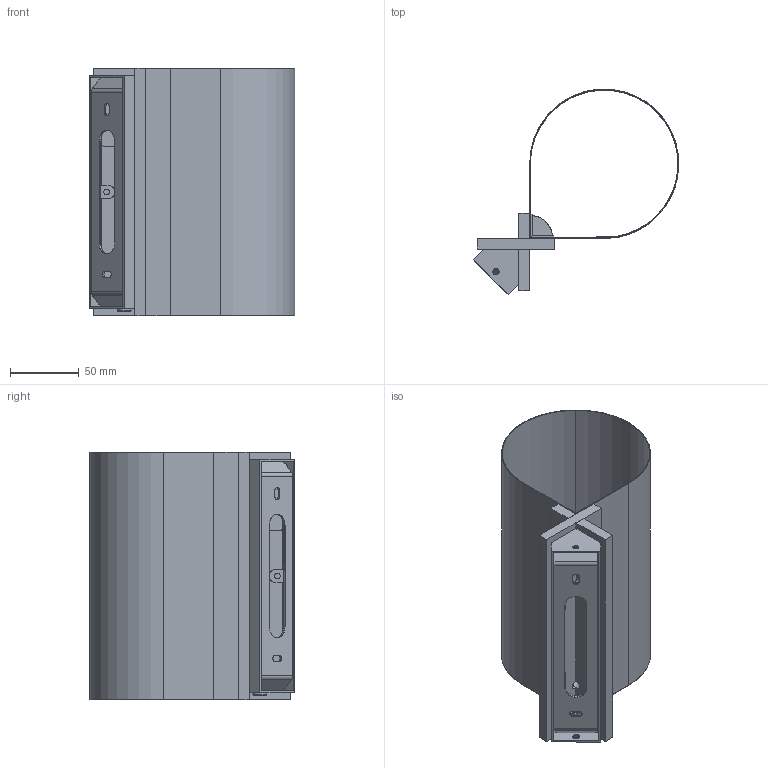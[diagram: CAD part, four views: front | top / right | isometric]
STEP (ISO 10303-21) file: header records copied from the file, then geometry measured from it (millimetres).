
FILE_DESCRIPTION(/* description */ (''),/* implementation_level */ '2;1');
FILE_NAME(/* name */ '20327',/* time_stamp */ '2026-05-05T08:46:15+02:00',/* author */ (''),/* organization */ (''),/* preprocessor_version */ 'ST-DEVELOPER v19.2',/* originating_system */ 'Rhino 8.30',/* authorisation */ '');
FILE_SCHEMA (('CONFIG_CONTROL_DESIGN'));
Length unit declared in the file: millimetre
Products named in the file (1): Document
Bounding box: 149.47 x 149.49 x 180 mm (x, y, z)
Surface area: 224341.5 mm2 (no closed solid volume)
Topology: 0 solids, 372 shells, 372 faces, 1655 edges, 1655 vertices
Faces by surface type: plane 209, cylinder 152, bspline 11
Entity records: 19307 total; most frequent: CARTESIAN_POINT 8543, ORIENTED_EDGE 1655, EDGE_CURVE 1655, VERTEX_POINT 1655, B_SPLINE_CURVE_WITH_KNOTS 1174, DIRECTION 975, AXIS2_PLACEMENT_3D 668, EDGE_LOOP 425
